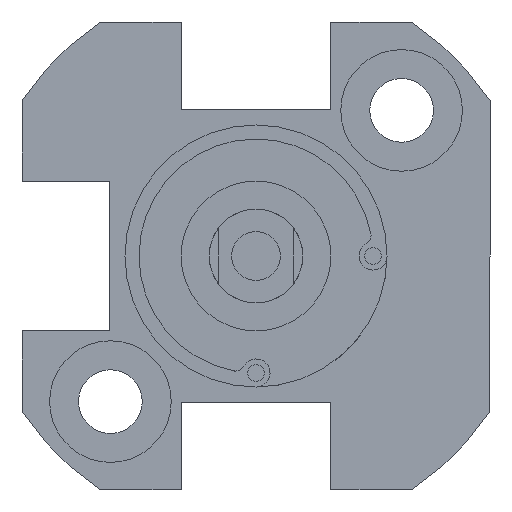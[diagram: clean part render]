
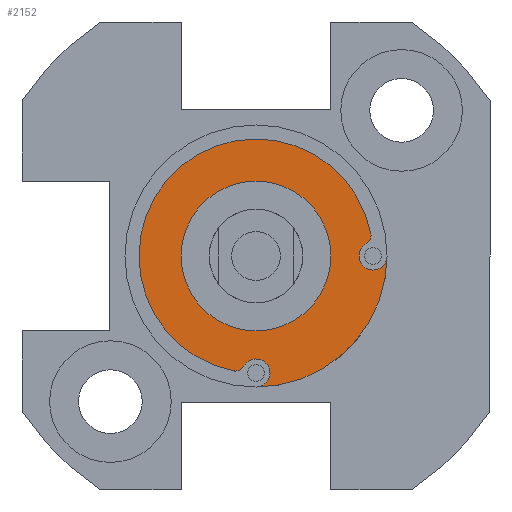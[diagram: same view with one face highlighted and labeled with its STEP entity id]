
A CAD part, front view. The second image highlights one B-rep face of the part: STEP entity #2152.
In plain terms, the highlighted planar face has unit normal (0, -1, 0).
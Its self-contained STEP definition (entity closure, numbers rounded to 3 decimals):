
#61 = VERTEX_POINT ( 'NONE', #567 ) ;
#68 = CARTESIAN_POINT ( 'NONE',  ( -1.189, -30., -6.136 ) ) ;
#116 = AXIS2_PLACEMENT_3D ( 'NONE', #2931, #1175, #1430 ) ;
#145 = CIRCLE ( 'NONE', #1181, 0.75 ) ;
#176 = AXIS2_PLACEMENT_3D ( 'NONE', #1667, #1639, #3164 ) ;
#210 = EDGE_CURVE ( 'NONE', #2694, #3170, #740, .T. ) ;
#304 = CIRCLE ( 'NONE', #2530, 0.75 ) ;
#358 = EDGE_CURVE ( 'NONE', #2694, #2250, #2414, .T. ) ;
#376 = EDGE_LOOP ( 'NONE', ( #1565, #2178, #1202, #1285, #3104, #957, #2850, #1564 ) ) ;
#450 = CARTESIAN_POINT ( 'NONE',  ( 6.25, -30., 0. ) ) ;
#456 = CARTESIAN_POINT ( 'NONE',  ( -1.094, -30., -6.145 ) ) ;
#511 = CARTESIAN_POINT ( 'NONE',  ( -1.094, -30., -5.645 ) ) ;
#562 = EDGE_LOOP ( 'NONE', ( #1311, #1321 ) ) ;
#567 = CARTESIAN_POINT ( 'NONE',  ( 6.25, -30., -0.75 ) ) ;
#629 = DIRECTION ( 'NONE',  ( 0., -1., 0. ) ) ;
#652 = AXIS2_PLACEMENT_3D ( 'NONE', #1658, #1891, #2142 ) ;
#689 = EDGE_CURVE ( 'NONE', #781, #1190, #2964, .T. ) ;
#740 = CIRCLE ( 'NONE', #116, 6.25 ) ;
#748 = EDGE_CURVE ( 'NONE', #953, #61, #1330, .T. ) ;
#759 = DIRECTION ( 'NONE',  ( 0., 0., -1. ) ) ;
#760 = DIRECTION ( 'NONE',  ( 0., 0., -1. ) ) ;
#781 = VERTEX_POINT ( 'NONE', #1230 ) ;
#812 = DIRECTION ( 'NONE',  ( 0., 0., 1. ) ) ;
#879 = CARTESIAN_POINT ( 'NONE',  ( 0., -30., 0. ) ) ;
#946 = CIRCLE ( 'NONE', #3167, 4. ) ;
#953 = VERTEX_POINT ( 'NONE', #2640 ) ;
#957 = ORIENTED_EDGE ( 'NONE', *, *, #2149, .T. ) ;
#980 = FACE_OUTER_BOUND ( 'NONE', #376, .T. ) ;
#1040 = AXIS2_PLACEMENT_3D ( 'NONE', #2998, #1759, #760 ) ;
#1082 = DIRECTION ( 'NONE',  ( 0., 0., 1. ) ) ;
#1115 = DIRECTION ( 'NONE',  ( 0., 1., 0. ) ) ;
#1141 = DIRECTION ( 'NONE',  ( 0., 0., 1. ) ) ;
#1175 = DIRECTION ( 'NONE',  ( 0., 1., 0. ) ) ;
#1181 = AXIS2_PLACEMENT_3D ( 'NONE', #3053, #1573, #1082 ) ;
#1190 = VERTEX_POINT ( 'NONE', #2022 ) ;
#1202 = ORIENTED_EDGE ( 'NONE', *, *, #2415, .T. ) ;
#1230 = CARTESIAN_POINT ( 'NONE',  ( 0., -30., 4. ) ) ;
#1246 = AXIS2_PLACEMENT_3D ( 'NONE', #879, #1858, #1141 ) ;
#1276 = EDGE_CURVE ( 'NONE', #61, #2839, #304, .T. ) ;
#1285 = ORIENTED_EDGE ( 'NONE', *, *, #210, .F. ) ;
#1311 = ORIENTED_EDGE ( 'NONE', *, *, #1411, .T. ) ;
#1321 = ORIENTED_EDGE ( 'NONE', *, *, #689, .T. ) ;
#1330 = CIRCLE ( 'NONE', #2112, 0.75 ) ;
#1404 = DIRECTION ( 'NONE',  ( 0., 0., 1. ) ) ;
#1411 = EDGE_CURVE ( 'NONE', #1190, #781, #946, .T. ) ;
#1430 = DIRECTION ( 'NONE',  ( 0., 0., 1. ) ) ;
#1564 = ORIENTED_EDGE ( 'NONE', *, *, #2749, .F. ) ;
#1565 = ORIENTED_EDGE ( 'NONE', *, *, #748, .T. ) ;
#1573 = DIRECTION ( 'NONE',  ( 0., 1., 0. ) ) ;
#1639 = DIRECTION ( 'NONE',  ( 0., 1., 0. ) ) ;
#1658 = CARTESIAN_POINT ( 'NONE',  ( -1.094, -30., -5.645 ) ) ;
#1667 = CARTESIAN_POINT ( 'NONE',  ( 0., -30., 0. ) ) ;
#1759 = DIRECTION ( 'NONE',  ( 0., -1., 0. ) ) ;
#1821 = VERTEX_POINT ( 'NONE', #2224 ) ;
#1858 = DIRECTION ( 'NONE',  ( 0., 1., 0. ) ) ;
#1865 = CARTESIAN_POINT ( 'NONE',  ( 0., -30., 0. ) ) ;
#1891 = DIRECTION ( 'NONE',  ( 0., -1., 0. ) ) ;
#1903 = AXIS2_PLACEMENT_3D ( 'NONE', #511, #2245, #759 ) ;
#1914 = EDGE_CURVE ( 'NONE', #1821, #2035, #145, .T. ) ;
#1931 = DIRECTION ( 'NONE',  ( 0., 0., 1. ) ) ;
#2008 = AXIS2_PLACEMENT_3D ( 'NONE', #3135, #629, #1404 ) ;
#2022 = CARTESIAN_POINT ( 'NONE',  ( 0., -30., -4. ) ) ;
#2035 = VERTEX_POINT ( 'NONE', #2566 ) ;
#2112 = AXIS2_PLACEMENT_3D ( 'NONE', #450, #2921, #1931 ) ;
#2123 = FACE_BOUND ( 'NONE', #562, .T. ) ;
#2142 = DIRECTION ( 'NONE',  ( 0., 0., -1. ) ) ;
#2149 = EDGE_CURVE ( 'NONE', #2250, #1821, #2622, .T. ) ;
#2152 = ADVANCED_FACE ( 'NONE', ( #980, #2123 ), #2882, .T. ) ;
#2178 = ORIENTED_EDGE ( 'NONE', *, *, #1276, .T. ) ;
#2224 = CARTESIAN_POINT ( 'NONE',  ( -0.656, -30., -5.887 ) ) ;
#2245 = DIRECTION ( 'NONE',  ( 0., -1., 0. ) ) ;
#2250 = VERTEX_POINT ( 'NONE', #456 ) ;
#2360 = DIRECTION ( 'NONE',  ( 0., 1., 0. ) ) ;
#2414 = CIRCLE ( 'NONE', #1903, 0.5 ) ;
#2415 = EDGE_CURVE ( 'NONE', #2839, #3170, #2949, .T. ) ;
#2530 = AXIS2_PLACEMENT_3D ( 'NONE', #2821, #1115, #812 ) ;
#2566 = CARTESIAN_POINT ( 'NONE',  ( 0., -30., -7. ) ) ;
#2600 = CARTESIAN_POINT ( 'NONE',  ( 5.887, -30., 0.656 ) ) ;
#2622 = CIRCLE ( 'NONE', #652, 0.5 ) ;
#2640 = CARTESIAN_POINT ( 'NONE',  ( 7., -30., 0. ) ) ;
#2694 = VERTEX_POINT ( 'NONE', #68 ) ;
#2707 = CARTESIAN_POINT ( 'NONE',  ( 6.136, -30., 1.189 ) ) ;
#2749 = EDGE_CURVE ( 'NONE', #953, #2035, #2855, .T. ) ;
#2821 = CARTESIAN_POINT ( 'NONE',  ( 6.25, -30., 0. ) ) ;
#2839 = VERTEX_POINT ( 'NONE', #2600 ) ;
#2850 = ORIENTED_EDGE ( 'NONE', *, *, #1914, .T. ) ;
#2855 = CIRCLE ( 'NONE', #1246, 7. ) ;
#2882 = PLANE ( 'NONE',  #2008 ) ;
#2921 = DIRECTION ( 'NONE',  ( 0., 1., 0. ) ) ;
#2931 = CARTESIAN_POINT ( 'NONE',  ( 0., -30., 0. ) ) ;
#2949 = CIRCLE ( 'NONE', #1040, 0.5 ) ;
#2964 = CIRCLE ( 'NONE', #176, 4. ) ;
#2998 = CARTESIAN_POINT ( 'NONE',  ( 5.645, -30., 1.094 ) ) ;
#3053 = CARTESIAN_POINT ( 'NONE',  ( 0., -30., -6.25 ) ) ;
#3104 = ORIENTED_EDGE ( 'NONE', *, *, #358, .T. ) ;
#3135 = CARTESIAN_POINT ( 'NONE',  ( 0., -30., 0. ) ) ;
#3149 = DIRECTION ( 'NONE',  ( 0., 0., 1. ) ) ;
#3164 = DIRECTION ( 'NONE',  ( 0., 0., 1. ) ) ;
#3167 = AXIS2_PLACEMENT_3D ( 'NONE', #1865, #2360, #3149 ) ;
#3170 = VERTEX_POINT ( 'NONE', #2707 ) ;
